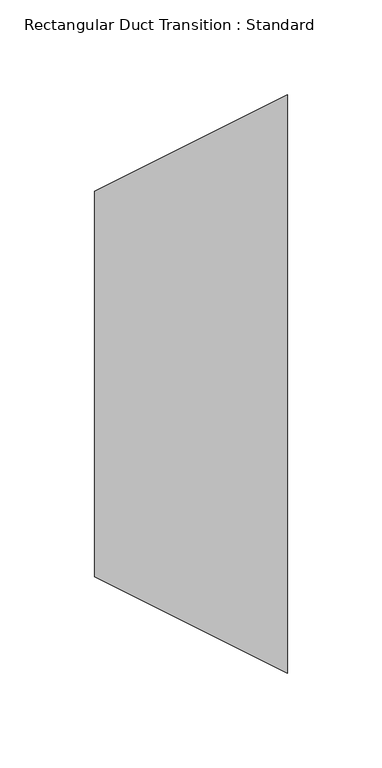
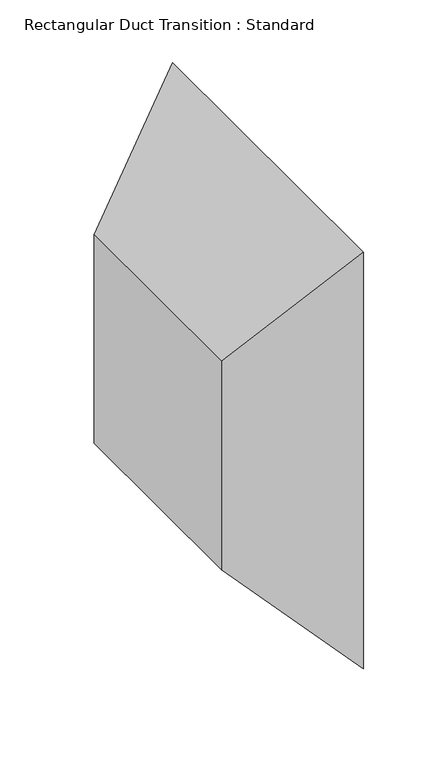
"""IFC4 building model written with IfcOpenShell, lengths in millimetres: duct fitting geometry, Rectangular Duct Transition : Standard."""

from ifc_helpers import new_model, si_unit, origin, place, context, project, spatial, faceted_brep, source, transform, mapped, element, save


def rectangular_duct_transition_standard_66d162c5(model_context):
    return source(origin(), model_context, "Body", "Brep", [
        faceted_brep([(101.6, -152.4, 203.2), (101.6, -152.4, -203.2), (101.6, 152.4, -203.2), (101.6, 152.4, 203.2), (0.0, -101.6, 101.6), (0.0, 101.6, 101.6), (0.0, 101.6, -101.6), (0.0, -101.6, -101.6)], [[[0, 1, 2, 3]], [[4, 5, 6, 7]], [[4, 7, 1, 0]], [[7, 6, 2, 1]], [[6, 5, 3, 2]], [[5, 4, 0, 3]]]),
        faceted_brep([(101.6, -152.4, 203.2), (101.6, -152.4, -203.2), (101.6, 152.4, -203.2), (101.6, 152.4, 203.2), (0.0, -101.6, 101.6), (0.0, 101.6, 101.6), (0.0, 101.6, -101.6), (0.0, -101.6, -101.6)], [[[0, 1, 2, 3]], [[4, 5, 6, 7]], [[4, 7, 1, 0]], [[7, 6, 2, 1]], [[6, 5, 3, 2]], [[5, 4, 0, 3]]]),
        faceted_brep([(101.6, -152.4, 203.2), (101.6, -152.4, -203.2), (101.6, 152.4, -203.2), (101.6, 152.4, 203.2), (0.0, -101.6, 101.6), (0.0, 101.6, 101.6), (0.0, 101.6, -101.6), (0.0, -101.6, -101.6)], [[[0, 1, 2, 3]], [[4, 5, 6, 7]], [[4, 7, 1, 0]], [[7, 6, 2, 1]], [[6, 5, 3, 2]], [[5, 4, 0, 3]]]),
    ])


if __name__ == "__main__":
    model = new_model("IFC4")
    model_context = context("Model", 3, world=origin())
    ifc_project = project(units=[si_unit("LENGTHUNIT", "METRE", prefix="MILLI")], contexts=[model_context])
    site = spatial("IfcSite", under=ifc_project)
    building = spatial("IfcBuilding", under=site)
    placement = place(None, origin())
    rectangular_duct_transition_standard_shape = rectangular_duct_transition_standard_66d162c5(model_context)
    element("IfcDuctFitting", 1, ObjectType="Rectangular Duct Transition : Standard", at=placement, inside=building, context=model_context, shape_type="MappedRepresentation", body=[
        mapped(rectangular_duct_transition_standard_shape, transform((0.0, 0.0, 0.0), x_axis=(1.0, 0.0, 0.0), y_axis=(0.0, 1.0, 0.0), z_axis=(0.0, 0.0, 1.0))),
    ])
    save(model, "model.ifc")
